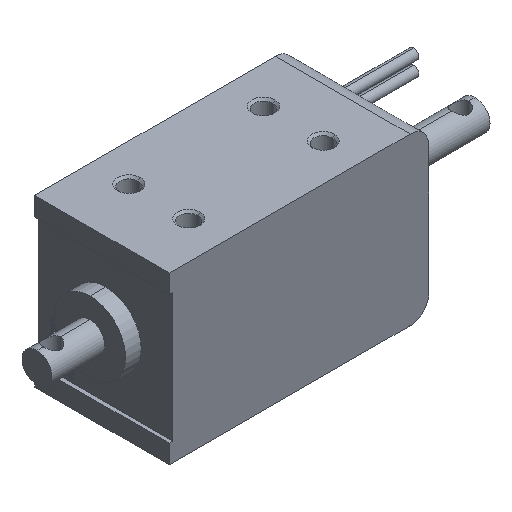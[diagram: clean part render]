
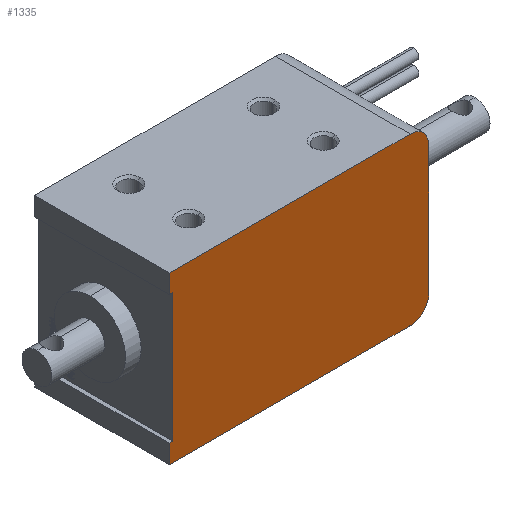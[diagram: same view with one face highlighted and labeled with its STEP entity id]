
A CAD part, isometric view. The second image highlights one B-rep face of the part: STEP entity #1335.
In plain terms, the highlighted planar face has unit normal (0, -1, 0).
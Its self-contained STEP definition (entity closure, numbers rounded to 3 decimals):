
#131 = CARTESIAN_POINT ( 'NONE',  ( -17.6, -9., 8.6 ) ) ;
#144 = CARTESIAN_POINT ( 'NONE',  ( -17.6, -9., -8.6 ) ) ;
#212 = EDGE_CURVE ( 'NONE', #10195, #3415, #5124, .T. ) ;
#304 = DIRECTION ( 'NONE',  ( 0., 0., 1. ) ) ;
#517 = CIRCLE ( 'NONE', #1366, 2.5 ) ;
#537 = EDGE_CURVE ( 'NONE', #11937, #7445, #8621, .T. ) ;
#953 = LINE ( 'NONE', #8103, #13344 ) ;
#975 = CARTESIAN_POINT ( 'NONE',  ( 14.6, -9., -8.6 ) ) ;
#1045 = EDGE_CURVE ( 'NONE', #10581, #14042, #2817, .T. ) ;
#1335 = ADVANCED_FACE ( 'NONE', ( #8274 ), #15816, .F. ) ;
#1366 = AXIS2_PLACEMENT_3D ( 'NONE', #13061, #5635, #14304 ) ;
#1624 = VERTEX_POINT ( 'NONE', #10932 ) ;
#1851 = VECTOR ( 'NONE', #15117, 1000. ) ;
#2200 = DIRECTION ( 'NONE',  ( 0., 0., 1. ) ) ;
#2239 = ORIENTED_EDGE ( 'NONE', *, *, #6479, .F. ) ;
#2603 = ORIENTED_EDGE ( 'NONE', *, *, #212, .F. ) ;
#2643 = VERTEX_POINT ( 'NONE', #6445 ) ;
#2697 = CARTESIAN_POINT ( 'NONE',  ( -17.1, -9., 11.1 ) ) ;
#2817 = CIRCLE ( 'NONE', #5011, 2.5 ) ;
#3017 = VECTOR ( 'NONE', #12191, 1000. ) ;
#3326 = EDGE_LOOP ( 'NONE', ( #4481, #2239, #12663, #8772, #14984, #5908, #4915, #2603, #8248, #10030 ) ) ;
#3415 = VERTEX_POINT ( 'NONE', #14541 ) ;
#4045 = LINE ( 'NONE', #5995, #10235 ) ;
#4481 = ORIENTED_EDGE ( 'NONE', *, *, #12830, .F. ) ;
#4915 = ORIENTED_EDGE ( 'NONE', *, *, #7872, .F. ) ;
#4982 = DIRECTION ( 'NONE',  ( 0., 1., 0. ) ) ;
#5011 = AXIS2_PLACEMENT_3D ( 'NONE', #975, #9626, #2200 ) ;
#5124 = LINE ( 'NONE', #2697, #1851 ) ;
#5180 = LINE ( 'NONE', #7715, #14687 ) ;
#5222 = CARTESIAN_POINT ( 'NONE',  ( -17.6, -9., 8.6 ) ) ;
#5317 = VECTOR ( 'NONE', #12638, 1000. ) ;
#5635 = DIRECTION ( 'NONE',  ( 0., 1., 0. ) ) ;
#5908 = ORIENTED_EDGE ( 'NONE', *, *, #6973, .F. ) ;
#5995 = CARTESIAN_POINT ( 'NONE',  ( -17.1, -9., -11.1 ) ) ;
#6010 = AXIS2_PLACEMENT_3D ( 'NONE', #12413, #4982, #13652 ) ;
#6330 = LINE ( 'NONE', #10930, #3017 ) ;
#6445 = CARTESIAN_POINT ( 'NONE',  ( -17.6, -9., -8.6 ) ) ;
#6479 = EDGE_CURVE ( 'NONE', #2643, #1624, #13891, .T. ) ;
#6493 = CARTESIAN_POINT ( 'NONE',  ( 17.1, -9., -8.6 ) ) ;
#6818 = CARTESIAN_POINT ( 'NONE',  ( 17.1, -9., 8.6 ) ) ;
#6973 = EDGE_CURVE ( 'NONE', #12426, #10581, #6330, .T. ) ;
#7445 = VERTEX_POINT ( 'NONE', #7503 ) ;
#7503 = CARTESIAN_POINT ( 'NONE',  ( -17.1, -9., 8.6 ) ) ;
#7678 = VERTEX_POINT ( 'NONE', #8686 ) ;
#7687 = VECTOR ( 'NONE', #9979, 1000. ) ;
#7715 = CARTESIAN_POINT ( 'NONE',  ( -17.6, -9., 11.1 ) ) ;
#7872 = EDGE_CURVE ( 'NONE', #3415, #12426, #517, .T. ) ;
#7962 = CARTESIAN_POINT ( 'NONE',  ( -17.6, -9., 11.1 ) ) ;
#8103 = CARTESIAN_POINT ( 'NONE',  ( -17.1, -9., -11.1 ) ) ;
#8184 = CARTESIAN_POINT ( 'NONE',  ( 14.6, -9., -11.1 ) ) ;
#8248 = ORIENTED_EDGE ( 'NONE', *, *, #13072, .F. ) ;
#8274 = FACE_OUTER_BOUND ( 'NONE', #3326, .T. ) ;
#8621 = LINE ( 'NONE', #5222, #5317 ) ;
#8686 = CARTESIAN_POINT ( 'NONE',  ( -17.6, -9., -11.1 ) ) ;
#8772 = ORIENTED_EDGE ( 'NONE', *, *, #13734, .F. ) ;
#9348 = DIRECTION ( 'NONE',  ( 0., 0., 1. ) ) ;
#9626 = DIRECTION ( 'NONE',  ( 0., 1., 0. ) ) ;
#9979 = DIRECTION ( 'NONE',  ( 1., 0., 0. ) ) ;
#10030 = ORIENTED_EDGE ( 'NONE', *, *, #537, .T. ) ;
#10195 = VERTEX_POINT ( 'NONE', #7962 ) ;
#10235 = VECTOR ( 'NONE', #15898, 1000. ) ;
#10581 = VERTEX_POINT ( 'NONE', #6493 ) ;
#10930 = CARTESIAN_POINT ( 'NONE',  ( 17.1, -9., -8.6 ) ) ;
#10932 = CARTESIAN_POINT ( 'NONE',  ( -17.1, -9., -8.6 ) ) ;
#11212 = VECTOR ( 'NONE', #13565, 1000. ) ;
#11828 = EDGE_CURVE ( 'NONE', #7678, #2643, #15303, .T. ) ;
#11937 = VERTEX_POINT ( 'NONE', #131 ) ;
#12191 = DIRECTION ( 'NONE',  ( 0., 0., -1. ) ) ;
#12308 = CARTESIAN_POINT ( 'NONE',  ( -17.6, -9., -11.1 ) ) ;
#12413 = CARTESIAN_POINT ( 'NONE',  ( 14.6, -9., 8.6 ) ) ;
#12426 = VERTEX_POINT ( 'NONE', #6818 ) ;
#12638 = DIRECTION ( 'NONE',  ( 1., 0., 0. ) ) ;
#12663 = ORIENTED_EDGE ( 'NONE', *, *, #11828, .F. ) ;
#12830 = EDGE_CURVE ( 'NONE', #1624, #7445, #953, .T. ) ;
#13061 = CARTESIAN_POINT ( 'NONE',  ( 14.6, -9., 8.6 ) ) ;
#13072 = EDGE_CURVE ( 'NONE', #11937, #10195, #5180, .T. ) ;
#13344 = VECTOR ( 'NONE', #9348, 1000. ) ;
#13565 = DIRECTION ( 'NONE',  ( 0., 0., 1. ) ) ;
#13652 = DIRECTION ( 'NONE',  ( 0., 0., 1. ) ) ;
#13734 = EDGE_CURVE ( 'NONE', #14042, #7678, #4045, .T. ) ;
#13891 = LINE ( 'NONE', #144, #7687 ) ;
#14042 = VERTEX_POINT ( 'NONE', #8184 ) ;
#14304 = DIRECTION ( 'NONE',  ( 0., 0., 1. ) ) ;
#14541 = CARTESIAN_POINT ( 'NONE',  ( 14.6, -9., 11.1 ) ) ;
#14687 = VECTOR ( 'NONE', #304, 1000. ) ;
#14984 = ORIENTED_EDGE ( 'NONE', *, *, #1045, .F. ) ;
#15117 = DIRECTION ( 'NONE',  ( 1., 0., 0. ) ) ;
#15303 = LINE ( 'NONE', #12308, #11212 ) ;
#15816 = PLANE ( 'NONE',  #6010 ) ;
#15898 = DIRECTION ( 'NONE',  ( -1., 0., 0. ) ) ;
